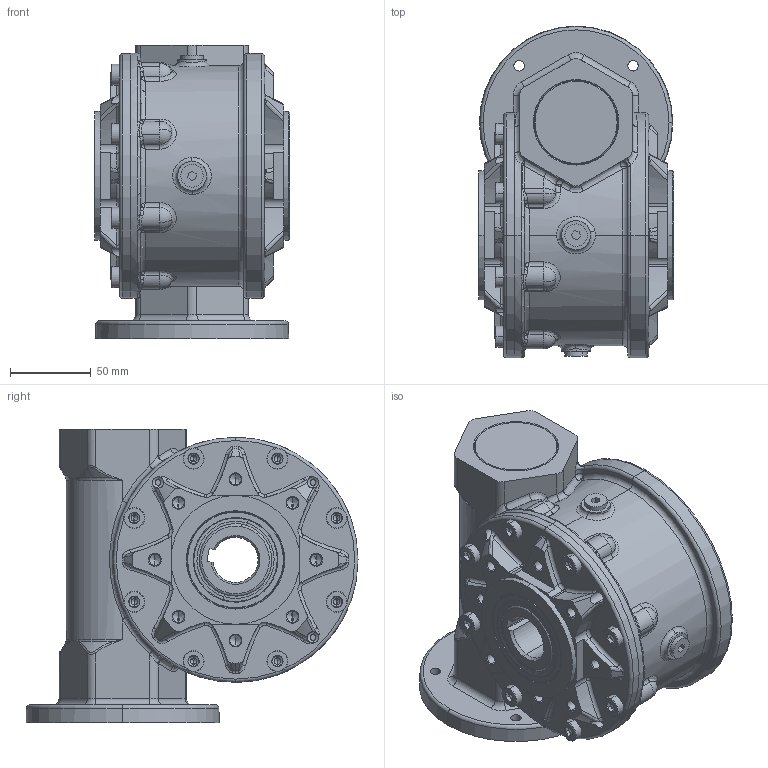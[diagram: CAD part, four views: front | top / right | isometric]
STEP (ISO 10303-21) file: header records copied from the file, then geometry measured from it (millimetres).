
FILE_DESCRIPTION (( 'STEP AP203' ), '1' );
FILE_NAME ('Sestava MRT70A-FT.STEP', '2005-08-15T05:22:42', ( '' ), ( '' ), 'SwSTEP 2.0', 'SolidWorks 2004146', '' );
FILE_SCHEMA (( 'CONFIG_CONTROL_DESIGN' ));
Products named in the file (1): Sestava MRT70A-FT
Bounding box: 121.1 x 206 x 182 mm (x, y, z)
Volume: 1442287.2 mm3; surface area: 427489.7 mm2
Topology: 30 solids, 30 shells, 3148 faces, 7840 edges, 4485 vertices
Faces by surface type: torus 752, cylinder 701, plane 557, cone 521, bspline 487, sphere 130
Entity records: 343242 total; most frequent: CARTESIAN_POINT 272800, ORIENTED_EDGE 15004, DIRECTION 14794, EDGE_CURVE 7502, AXIS2_PLACEMENT_3D 6578, VERTEX_POINT 4403, CIRCLE 3916, EDGE_LOOP 3357
